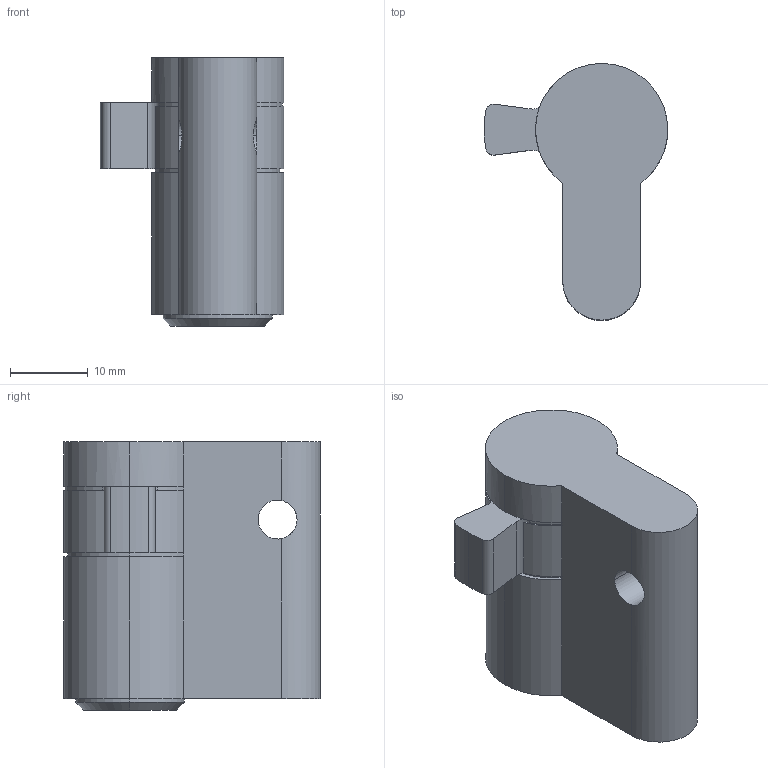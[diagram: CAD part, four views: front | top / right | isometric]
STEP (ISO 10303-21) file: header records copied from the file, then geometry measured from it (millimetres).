
FILE_DESCRIPTION (( 'STEP AP214' ), '1' );
FILE_NAME ('TPL-H-APC-012-R 09Oct2024.STEP', '2024-10-09T04:46:48', ( '' ), ( '' ), 'SwSTEP 2.0', 'SolidWorks 2023', '' );
FILE_SCHEMA (( 'AUTOMOTIVE_DESIGN' ));
Length unit declared in the file: millimetre
Products named in the file (1): TPL-H-APC-012-R 09Oct2024
Bounding box: 23.6 x 33 x 34.5 mm (x, y, z)
Volume: 12595.5 mm3; surface area: 4390.3 mm2
Topology: 1 solids, 1 shells, 46 faces, 127 edges, 80 vertices
Faces by surface type: cylinder 27, plane 16, cone 3
Entity records: 1575 total; most frequent: CARTESIAN_POINT 324, DIRECTION 278, ORIENTED_EDGE 254, EDGE_CURVE 127, AXIS2_PLACEMENT_3D 110, VERTEX_POINT 80, CIRCLE 63, LINE 58
